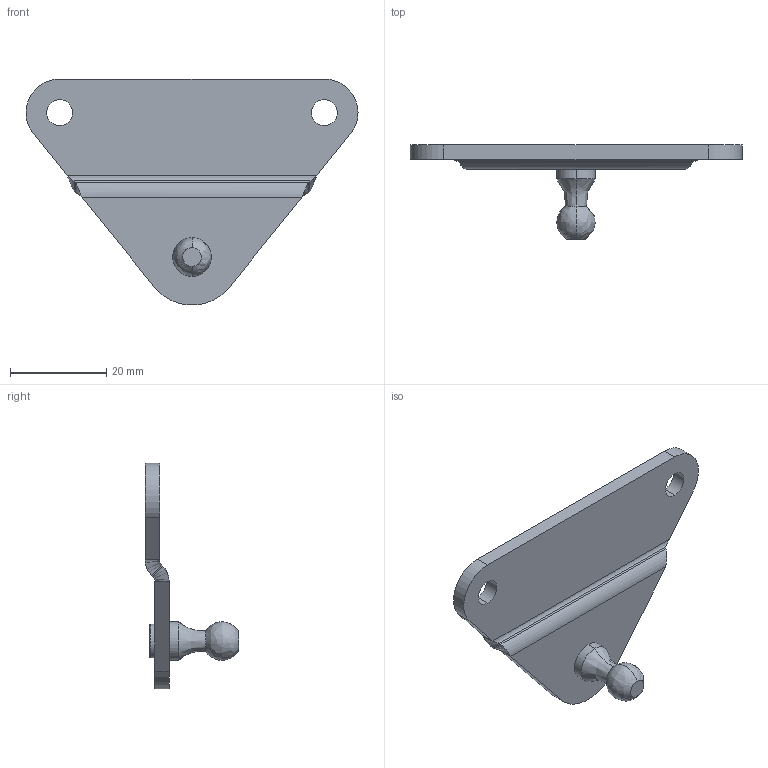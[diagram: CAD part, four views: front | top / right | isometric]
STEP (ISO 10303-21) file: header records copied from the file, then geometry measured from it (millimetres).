
FILE_DESCRIPTION (( 'STEP AP214' ), '1' );
FILE_NAME ('15.BVS-021.STEP', '2017-10-09T07:22:43', ( '' ), ( '' ), 'SwSTEP 2.0', 'SolidWorks 2016', '' );
FILE_SCHEMA (( 'AUTOMOTIVE_DESIGN' ));
Length unit declared in the file: millimetre
Products named in the file (1): 15.BVS-021
Bounding box: 69 x 19.5 x 46.97 mm (x, y, z)
Volume: 6819.7 mm3; surface area: 5311.2 mm2
Topology: 2 solids, 2 shells, 45 faces, 104 edges, 59 vertices
Faces by surface type: cylinder 17, plane 16, bspline 8, cone 4
Entity records: 1467 total; most frequent: CARTESIAN_POINT 459, ORIENTED_EDGE 196, DIRECTION 194, EDGE_CURVE 98, AXIS2_PLACEMENT_3D 72, VERTEX_POINT 59, EDGE_LOOP 53, VECTOR 50
